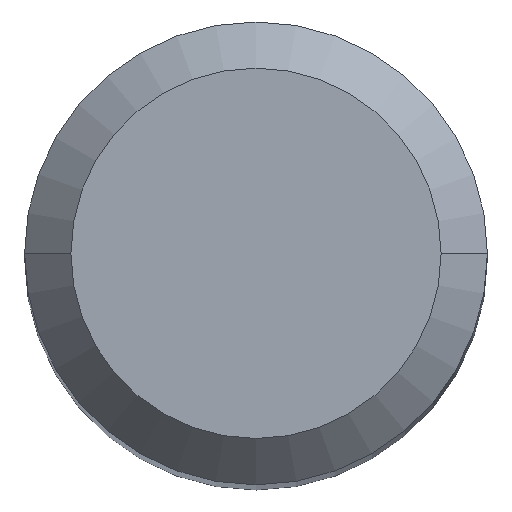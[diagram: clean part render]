
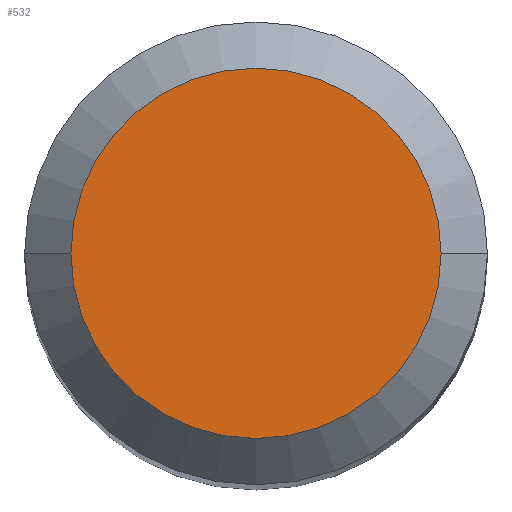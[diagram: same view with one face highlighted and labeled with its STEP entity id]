
A CAD part, top view. The second image highlights one B-rep face of the part: STEP entity #532.
In plain terms, the highlighted planar face has unit normal (0, 0, 1).
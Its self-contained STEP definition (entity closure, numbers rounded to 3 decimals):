
#20 = FACE_OUTER_BOUND ( 'NONE', #299, .T. ) ;
#21 = DIRECTION ( 'NONE',  ( 1., 0., 0. ) ) ;
#106 = AXIS2_PLACEMENT_3D ( 'NONE', #409, #498, #21 ) ;
#187 = DIRECTION ( 'NONE',  ( 0., 0., -1. ) ) ;
#188 = ORIENTED_EDGE ( 'NONE', *, *, #464, .F. ) ;
#207 = PLANE ( 'NONE',  #106 ) ;
#247 = EDGE_CURVE ( 'NONE', #256, #570, #516, .T. ) ;
#251 = CARTESIAN_POINT ( 'NONE',  ( -2.4, 0., 0. ) ) ;
#254 = CARTESIAN_POINT ( 'NONE',  ( 2.4, 0., 0. ) ) ;
#256 = VERTEX_POINT ( 'NONE', #251 ) ;
#290 = DIRECTION ( 'NONE',  ( -1., 0., 0. ) ) ;
#299 = EDGE_LOOP ( 'NONE', ( #517, #188 ) ) ;
#300 = CARTESIAN_POINT ( 'NONE',  ( 0., 0., 0. ) ) ;
#338 = CARTESIAN_POINT ( 'NONE',  ( 0., 0., 0. ) ) ;
#340 = CIRCLE ( 'NONE', #361, 2.4 ) ;
#361 = AXIS2_PLACEMENT_3D ( 'NONE', #300, #587, #495 ) ;
#409 = CARTESIAN_POINT ( 'NONE',  ( 0., 2.4, 0. ) ) ;
#464 = EDGE_CURVE ( 'NONE', #570, #256, #340, .T. ) ;
#495 = DIRECTION ( 'NONE',  ( -1., 0., 0. ) ) ;
#498 = DIRECTION ( 'NONE',  ( 0., 0., 1. ) ) ;
#516 = CIRCLE ( 'NONE', #601, 2.4 ) ;
#517 = ORIENTED_EDGE ( 'NONE', *, *, #247, .F. ) ;
#532 = ADVANCED_FACE ( 'NONE', ( #20 ), #207, .T. ) ;
#570 = VERTEX_POINT ( 'NONE', #254 ) ;
#587 = DIRECTION ( 'NONE',  ( 0., 0., -1. ) ) ;
#601 = AXIS2_PLACEMENT_3D ( 'NONE', #338, #187, #290 ) ;
